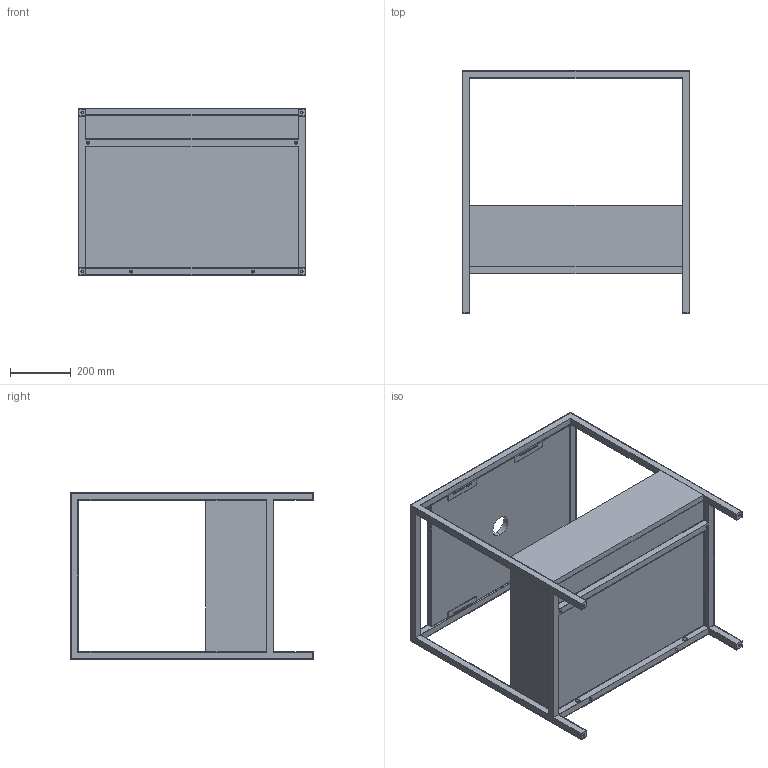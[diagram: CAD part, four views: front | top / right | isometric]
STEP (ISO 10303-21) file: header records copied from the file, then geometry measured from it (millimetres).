
FILE_DESCRIPTION (( 'STEP AP203' ), '1' );
FILE_NAME ('STA 75 01.STEP', '2019-02-04T12:03:34', ( '' ), ( '' ), 'SwSTEP 2.0', 'SolidWorks 2019', '' );
FILE_SCHEMA (( 'CONFIG_CONTROL_DESIGN' ));
Length unit declared in the file: millimetre
Products named in the file (4): struttura STAND75 2018; cassettoSTAND75; PIANO MISURA 75 2018; STA 75 01
Assembly tree (3 placements, depth 2):
  STA 75 01
    struttura STAND75 2018
    PIANO MISURA 75 2018
    cassettoSTAND75
Bounding box: 750 x 800 x 550 mm (x, y, z)
Volume: 30534074.3 mm3; surface area: 4576406.7 mm2
Topology: 4 solids, 4 shells, 189 faces, 506 edges, 316 vertices
Faces by surface type: plane 127, cylinder 54, torus 8
Entity records: 6336 total; most frequent: CARTESIAN_POINT 1017, DIRECTION 1012, ORIENTED_EDGE 1012, EDGE_CURVE 506, VECTOR 390, LINE 390, VERTEX_POINT 316, AXIS2_PLACEMENT_3D 311
